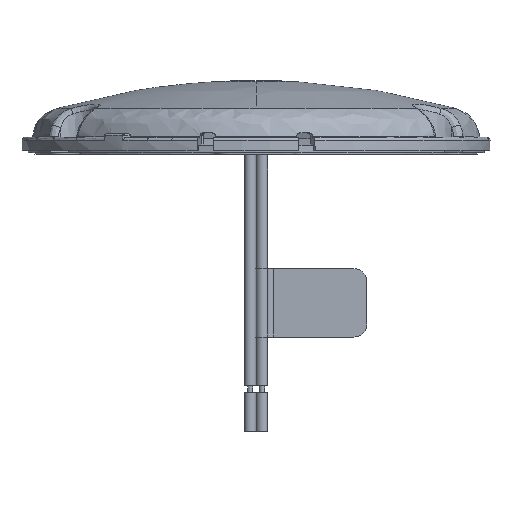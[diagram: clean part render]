
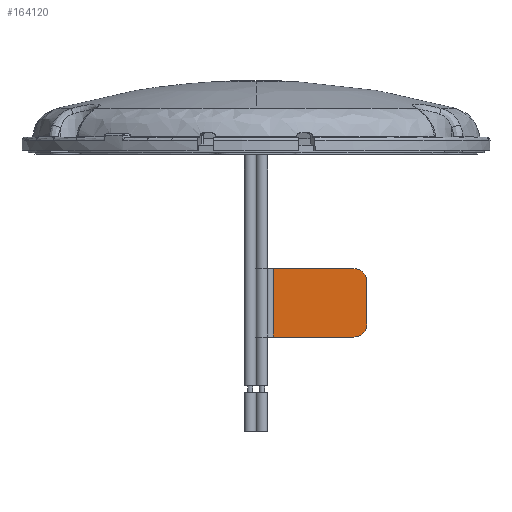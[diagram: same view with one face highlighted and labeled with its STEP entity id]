
A CAD part, front view. The second image highlights one B-rep face of the part: STEP entity #164120.
In plain terms, the highlighted planar face has unit normal (0, -1, 0) as drawn and (1, 0, 0) by its records, which use the part's own axes.
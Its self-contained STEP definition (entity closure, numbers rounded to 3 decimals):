
#160600=CARTESIAN_POINT('',(-36.423,187.216,
7.605));
#160610=DIRECTION('',(0.,0.,
1.));
#160620=VECTOR('',#160610,1.);
#160630=LINE('',#160600,#160620);
#160640=CARTESIAN_POINT('',(-36.423,187.216,
-3.081));
#160650=VERTEX_POINT('',#160640);
#160660=CARTESIAN_POINT('',(-36.423,187.216,
9.269));
#160670=VERTEX_POINT('',#160660);
#160680=EDGE_CURVE('',#160650,#160670,#160630,.T.);
#162030=CARTESIAN_POINT('',(-36.423,197.716,
-3.081));
#162040=VERTEX_POINT('',#162030);
#162070=CARTESIAN_POINT('',(-36.423,197.716,
7.605));
#162080=DIRECTION('',(0.,0.,
1.));
#162090=VECTOR('',#162080,1.);
#162100=LINE('',#162070,#162090);
#162110=CARTESIAN_POINT('',(-36.423,197.716,
9.269));
#162120=VERTEX_POINT('',#162110);
#162130=EDGE_CURVE('',#162040,#162120,#162100,.T.);
#163030=CARTESIAN_POINT('',(-36.423,192.466,
11.269));
#163040=DIRECTION('',(0.,1.,0.));
#163050=VECTOR('',#163040,1.);
#163060=LINE('',#163030,#163050);
#163070=CARTESIAN_POINT('',(-36.423,189.216,
11.269));
#163080=VERTEX_POINT('',#163070);
#163090=CARTESIAN_POINT('',(-36.423,195.716,
11.269));
#163100=VERTEX_POINT('',#163090);
#163110=EDGE_CURVE('',#163080,#163100,#163060,.T.);
#163510=CARTESIAN_POINT('',(-36.423,195.716,
9.269));
#163520=DIRECTION('',(1.,0.,
0.));
#163530=DIRECTION('',(0.,0.,
-1.));
#163540=AXIS2_PLACEMENT_3D('',#163510,#163520,#163530);
#163550=CIRCLE('',#163540,2.);
#163560=EDGE_CURVE('',#162120,#163100,#163550,.T.);
#163710=CARTESIAN_POINT('',(-36.423,189.216,
9.269));
#163720=DIRECTION('',(1.,0.,
0.));
#163730=DIRECTION('',(0.,0.,
-1.));
#163740=AXIS2_PLACEMENT_3D('',#163710,#163720,#163730);
#163750=CIRCLE('',#163740,2.);
#163760=EDGE_CURVE('',#163080,#160670,#163750,.T.);
#163870=CARTESIAN_POINT('',(-36.423,192.466,
-3.081));
#163880=DIRECTION('',(0.,1.,0.));
#163890=VECTOR('',#163880,1.);
#163900=LINE('',#163870,#163890);
#163910=EDGE_CURVE('',#160650,#162040,#163900,.T.);
#163990=CARTESIAN_POINT('',(-36.423,192.466,
-3.081));
#164000=DIRECTION('',(1.,0.,
0.));
#164010=DIRECTION('',(0.,-1.,0.));
#164020=AXIS2_PLACEMENT_3D('',#163990,#164000,#164010);
#164030=PLANE('',#164020);
#164040=ORIENTED_EDGE('',*,*,#163760,.T.);
#164050=ORIENTED_EDGE('',*,*,#163110,.F.);
#164060=ORIENTED_EDGE('',*,*,#163560,.T.);
#164070=ORIENTED_EDGE('',*,*,#162130,.T.);
#164080=ORIENTED_EDGE('',*,*,#163910,.T.);
#164090=ORIENTED_EDGE('',*,*,#160680,.F.);
#164100=EDGE_LOOP('',(#164090,#164080,#164070,#164060,#164050,#164040));
#164110=FACE_OUTER_BOUND('',#164100,.T.);
#164120=ADVANCED_FACE('',(#164110),#164030,.T.);
